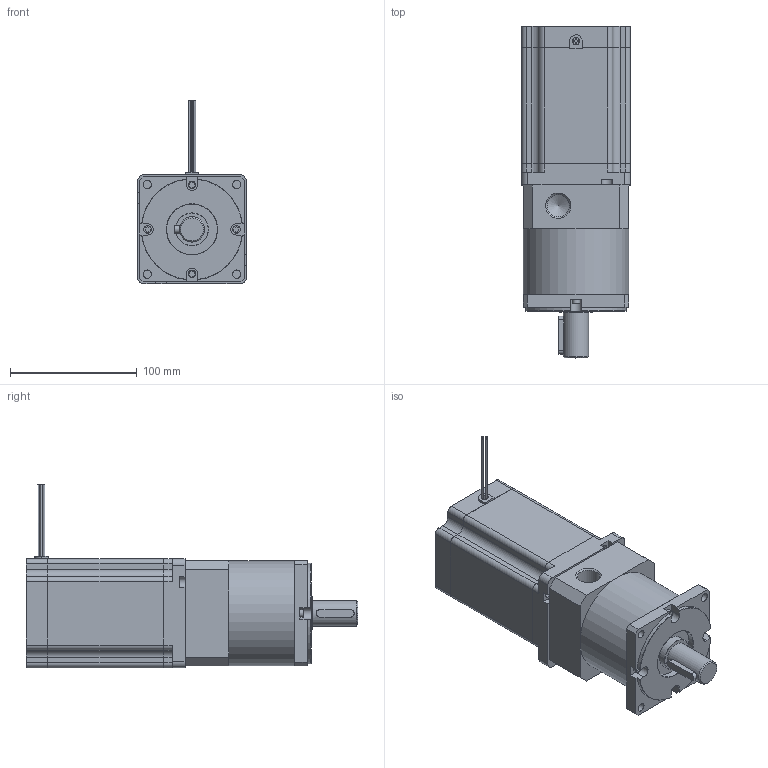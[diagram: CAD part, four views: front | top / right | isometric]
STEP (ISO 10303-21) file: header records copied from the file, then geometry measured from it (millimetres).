
FILE_DESCRIPTION(/* description */ (''),/* implementation_level */ '2;1');
FILE_NAME(/* name */ '86HS126-2408PLF10(80BLF).stp',/* time_stamp */ '2020-10-26T20:14:16+08:00',/* author */ (''),/* organization */ (''),/* preprocessor_version */ 'ST-DEVELOPER v15',/* originating_system */ 'SIEMENS PLM Software NX 10.0',/* authorisation */ '');
FILE_SCHEMA (('CONFIG_CONTROL_DESIGN'));
Length unit declared in the file: millimetre
Products named in the file (6): 80PLF 减速箱; 螺钉; 086.001BB; 001f-1; 91.5h定子; 86HS126-2408PLF10(80BLF)
Assembly tree (8 placements, depth 2):
  86HS126-2408PLF10(80BLF)
    91.5h定子
    001f-1
    086.001BB
    螺钉  x4
    80PLF 减速箱
Bounding box: 86 x 262 x 145 mm (x, y, z)
Volume: 1371627.7 mm3; surface area: 147741.8 mm2
Topology: 8 solids, 8 shells, 349 faces, 949 edges, 632 vertices
Faces by surface type: plane 234, cylinder 99, cone 12, bspline 4
Full cylindrical faces by diameter (mm): 1.5 x4, 4 x4, 4.7 x4, 6 x8, 6.5 x4, 6.6 x4, 17 x2, 17.5 x2, 20 x1, 26 x1, 40 x1, 52 x1, 73 x2, 83 x1
Entity records: 9886 total; most frequent: CARTESIAN_POINT 1916, DIRECTION 1503, ORIENTED_EDGE 1438, EDGE_CURVE 719, AXIS2_PLACEMENT_3D 513, VERTEX_POINT 504, LINE 477, VECTOR 477
